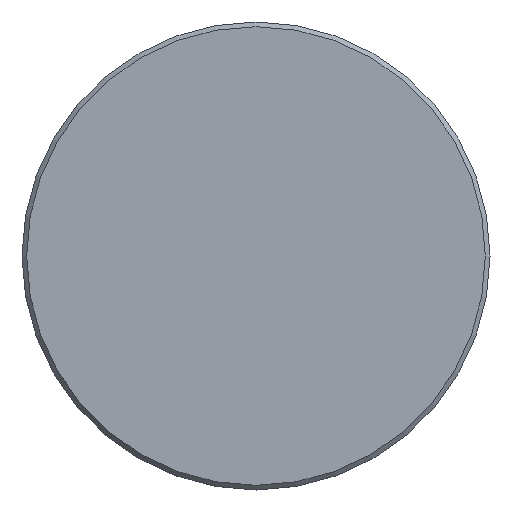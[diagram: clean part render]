
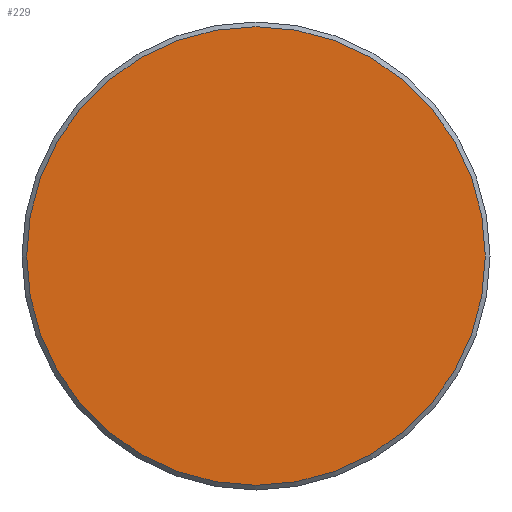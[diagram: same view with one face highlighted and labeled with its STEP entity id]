
A CAD part, front view. The second image highlights one B-rep face of the part: STEP entity #229.
In plain terms, the highlighted planar face has unit normal (0, -1, 0).
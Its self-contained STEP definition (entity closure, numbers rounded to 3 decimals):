
#229 = ADVANCED_FACE( '', ( #441 ), #442, .F. );
#441 = FACE_OUTER_BOUND( '', #641, .T. );
#442 = PLANE( '', #642 );
#641 = EDGE_LOOP( '', ( #1025 ) );
#642 = AXIS2_PLACEMENT_3D( '', #1026, #1027, #1028 );
#1025 = ORIENTED_EDGE( '', *, *, #1173, .T. );
#1026 = CARTESIAN_POINT( '', ( 24.5, 0., 0. ) );
#1027 = DIRECTION( '', ( 0., 1., 0. ) );
#1028 = DIRECTION( '', ( 0., 0., 1. ) );
#1173 = EDGE_CURVE( '', #1373, #1373, #1374, .T. );
#1373 = VERTEX_POINT( '', #1726 );
#1374 = CIRCLE( '', #1727, 24.5 );
#1726 = CARTESIAN_POINT( '', ( 0., 0., -24.5 ) );
#1727 = AXIS2_PLACEMENT_3D( '', #2063, #2064, #2065 );
#2063 = CARTESIAN_POINT( '', ( 0., 0., 0. ) );
#2064 = DIRECTION( '', ( 0., -1., 0. ) );
#2065 = DIRECTION( '', ( 0., 0., -1. ) );
